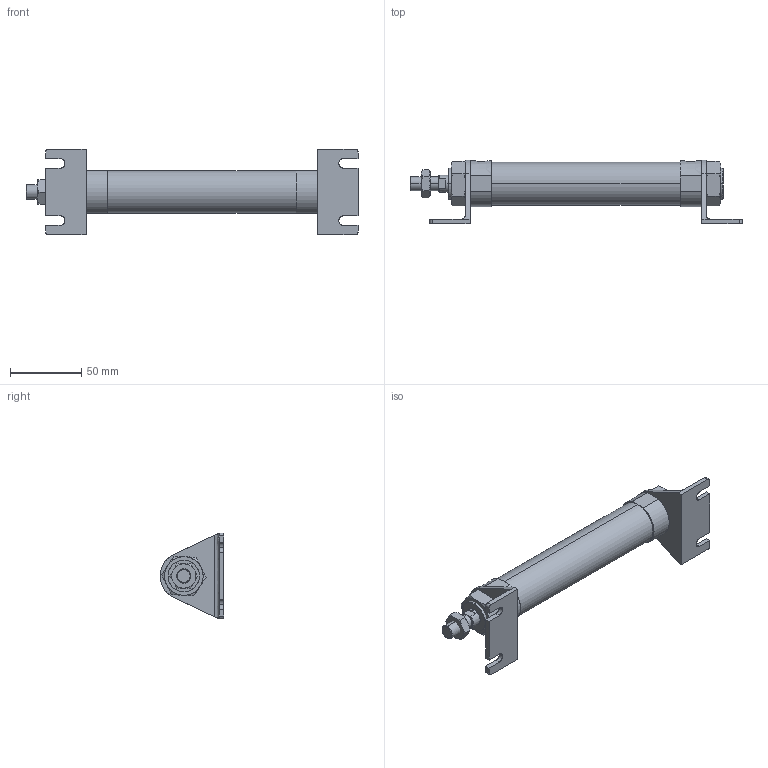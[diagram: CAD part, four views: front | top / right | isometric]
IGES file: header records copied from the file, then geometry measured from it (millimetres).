
Start section: SolidWorks IGES file using analytic representation for surfaces
Global section: file name: C:\Users\Toshiba\Desktop\J#2-25-100-L.IGS; native system: SolidWorks 2014; preprocessor: SolidWorks 2014; author: Toshiba; date: 160310.085433; units: millimetre
Bounding box: 232.2 x 44.5 x 60 mm (x, y, z)
Surface area: 39504.8 mm2 (no closed solid volume)
Topology: 0 solids, 0 shells, 171 faces, 2800 edges, 2796 vertices
Faces by surface type: bspline 111, revolution 60
